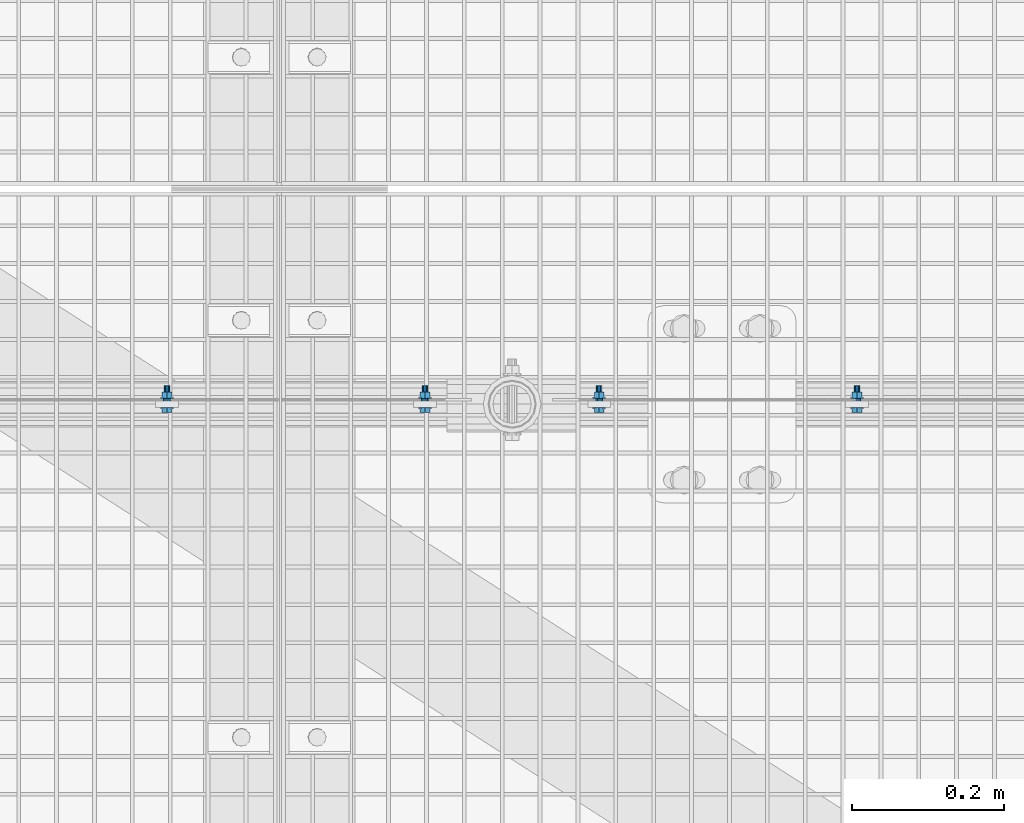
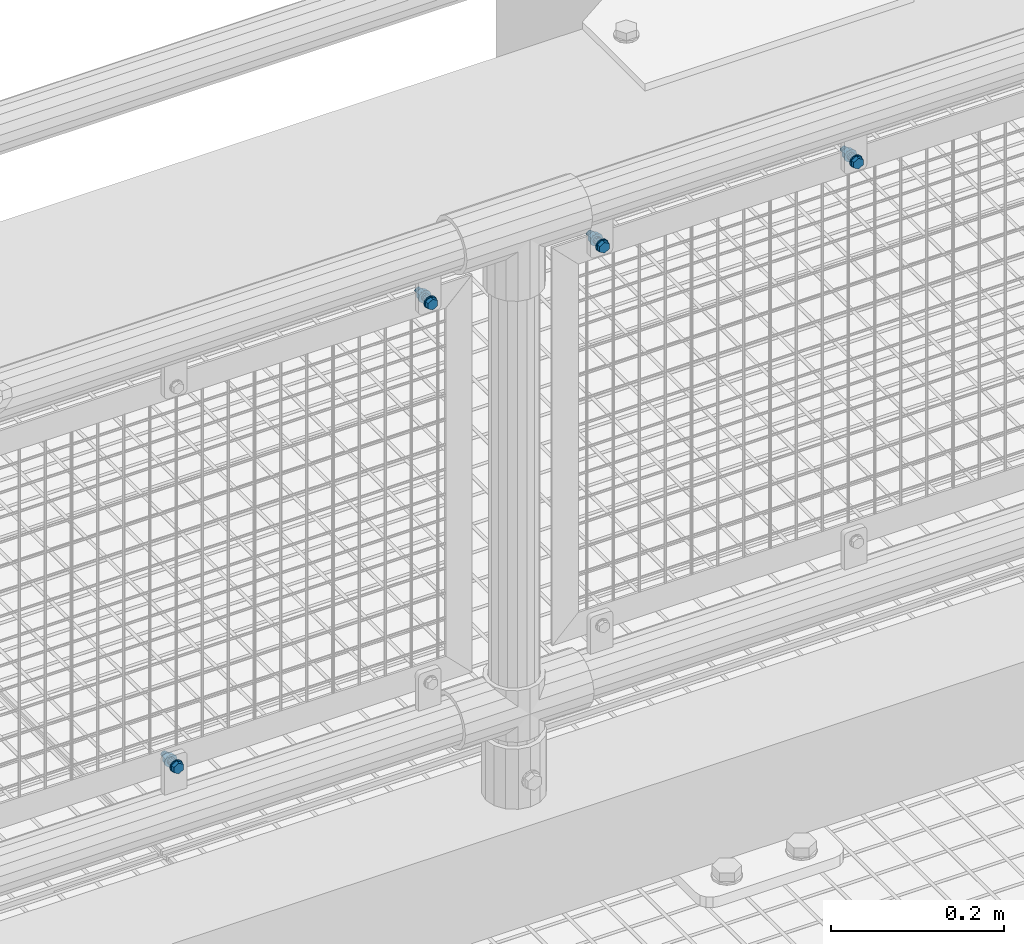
# One storey, part 91 of 1530: 4 mechanical fasteners.
"""IFC2X3 building model written with IfcOpenShell, lengths in millimetres."""

from ifc_helpers import new_model, si_unit, frame, origin_with_axes, place, context, subcontext, project, spatial, faceted_brep, source, transform, mapped, material, type_object, element, save


model = new_model("IFC2X3")

# Units and contexts
model_context = context("Model", 3, precision=1e-05, world=origin_with_axes())
body_context = subcontext(model_context, "Body", "Model", "MODEL_VIEW")
ifc_project = project(units=[si_unit("LENGTHUNIT", "METRE", prefix="MILLI"), si_unit("AREAUNIT", "SQUARE_METRE"), si_unit("VOLUMEUNIT", "CUBIC_METRE"), si_unit("MASSUNIT", "GRAM", prefix="KILO"), si_unit("TIMEUNIT", "SECOND"), si_unit("PLANEANGLEUNIT", "RADIAN"), si_unit("SOLIDANGLEUNIT", "STERADIAN"), si_unit("THERMODYNAMICTEMPERATUREUNIT", "DEGREE_CELSIUS"), si_unit("LUMINOUSINTENSITYUNIT", "LUMEN")], contexts=[model_context])

# Site, building, storey
site_placement = place(None, origin_with_axes())
site = spatial("IfcSite", under=ifc_project, at=site_placement, Name="Brattvåg", CompositionType="ELEMENT")
building_placement = place(site_placement, origin_with_axes())
building = spatial("IfcBuilding", under=site, at=building_placement, Name="Undefined", CompositionType="ELEMENT")
storey_placement = place(building_placement, origin_with_axes())
storey = spatial("IfcBuildingStorey", under=building, at=storey_placement, Name="Undefined", CompositionType="ELEMENT", Elevation=0.0)

# Mechanical fasteners
ifc_material = material(Name="8")
mechanical_fastener_type = type_object("IfcMechanicalFastenerType", Name="Bolt assembly")
shared_shape_1 = source(origin_with_axes(), body_context, "Body", "Brep", [
    faceted_brep([(7.50555349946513, -6.90000021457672, 0.0), (3.75277674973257, -6.90000021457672, 6.5), (-3.75277674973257, -6.90000021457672, 6.5), (-7.50555349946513, -6.90000021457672, 9.19165206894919e-16), (-3.75277674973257, -6.90000021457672, -6.5), (3.75277674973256, -6.90000021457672, -6.5), (3.75277674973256, -1.60000002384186, -6.5), (-3.75277674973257, -1.60000002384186, -6.5), (-7.50555349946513, -1.60000002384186, 9.19165206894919e-16), (-3.75277674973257, -1.60000002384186, 6.5), (3.75277674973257, -1.60000002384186, 6.5), (7.50555349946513, -1.60000002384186, 0.0), (4.0, -1.60000002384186, 0.0), (3.46410161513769, -1.60000002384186, 2.00000000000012), (1.99999999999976, -1.60000002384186, 3.46410161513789), (-4.14534392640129e-13, -1.60000002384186, 4.0), (-2.00000000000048, -1.60000002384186, 3.46410161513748), (-3.4641016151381, -1.60000002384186, 1.9999999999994), (-4.0, -1.60000002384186, -8.29068785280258e-13), (-3.46410161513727, -1.60000002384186, -2.00000000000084), (-1.99999999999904, -1.60000002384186, -3.46410161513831), (1.23916228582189e-12, -1.60000002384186, -4.0), (2.00000000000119, -1.60000002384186, -3.46410161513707), (3.46410161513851, -1.60000002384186, -1.99999999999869), (3.46410161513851, 28.3999999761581, -1.99999999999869), (2.00000000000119, 28.3999999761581, -3.46410161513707), (1.23916228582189e-12, 28.3999999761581, -4.0), (-1.99999999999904, 28.3999999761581, -3.46410161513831), (-3.46410161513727, 28.3999999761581, -2.00000000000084), (-4.0, 28.3999999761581, -8.29068785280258e-13), (-3.4641016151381, 28.3999999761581, 1.9999999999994), (-2.00000000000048, 28.3999999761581, 3.46410161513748), (-4.14534392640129e-13, 28.3999999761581, 4.0), (1.99999999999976, 28.3999999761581, 3.46410161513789), (3.46410161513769, 28.3999999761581, 2.00000000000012), (4.0, 28.3999999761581, 0.0), (8.5, -1.60000002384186, 0.0), (7.36121593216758, -1.60000002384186, 4.25000000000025), (4.24999999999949, -1.60000002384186, 7.36121593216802), (-8.80885584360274e-13, -1.60000002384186, 8.5), (-4.25000000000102, -1.60000002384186, 7.36121593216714), (-7.36121593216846, -1.60000002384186, 4.24999999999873), (-8.5, -1.60000002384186, -1.76177116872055e-12), (-7.3612159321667, -1.60000002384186, -4.25000000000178), (-4.24999999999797, -1.60000002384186, -7.3612159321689), (2.63321985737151e-12, -1.60000002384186, -8.5), (4.25000000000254, -1.60000002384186, -7.36121593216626), (7.36121593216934, -1.60000002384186, -4.24999999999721), (7.36121593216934, 0.0, -4.24999999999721), (4.25000000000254, 0.0, -7.36121593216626), (2.63321985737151e-12, 0.0, -8.5), (-4.24999999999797, 0.0, -7.3612159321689), (-7.3612159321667, 0.0, -4.25000000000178), (-8.5, 0.0, -1.76177116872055e-12), (-7.36121593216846, 0.0, 4.24999999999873), (-4.25000000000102, 0.0, 7.36121593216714), (-8.80885584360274e-13, 0.0, 8.5), (4.24999999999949, 0.0, 7.36121593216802), (7.36121593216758, 0.0, 4.25000000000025), (8.5, 0.0, 0.0), (8.5, 11.5015258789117, 0.0), (7.36121593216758, 11.5015258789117, 4.25000000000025), (4.24999999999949, 11.5015258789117, 7.36121593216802), (-8.80885584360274e-13, 11.5015258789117, 8.5), (-4.25000000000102, 11.5015258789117, 7.36121593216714), (-7.36121593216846, 11.5015258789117, 4.24999999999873), (-8.5, 11.5015258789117, -1.76177116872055e-12), (-7.3612159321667, 11.5015258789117, -4.25000000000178), (-4.24999999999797, 11.5015258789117, -7.3612159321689), (2.63321985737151e-12, 11.5015258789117, -8.5), (4.25000000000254, 11.5015258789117, -7.36121593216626), (7.36121593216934, 11.5015258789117, -4.24999999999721), (7.36121593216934, 13.1015259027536, -4.24999999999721), (4.25000000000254, 13.1015259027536, -7.36121593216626), (2.63321985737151e-12, 13.1015259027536, -8.5), (-4.24999999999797, 13.1015259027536, -7.3612159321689), (-7.3612159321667, 13.1015259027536, -4.25000000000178), (-8.5, 13.1015259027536, -1.76177116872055e-12), (-7.36121593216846, 13.1015259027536, 4.24999999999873), (-4.25000000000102, 13.1015259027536, 7.36121593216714), (-8.80885584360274e-13, 13.1015259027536, 8.5), (4.24999999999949, 13.1015259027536, 7.36121593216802), (7.36121593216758, 13.1015259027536, 4.25000000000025), (8.5, 13.1015259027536, 0.0), (7.50555349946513, 13.1015259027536, 0.0), (3.75277674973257, 13.1015259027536, 6.5), (-3.75277674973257, 13.1015259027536, 6.5), (-7.50555349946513, 13.1015259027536, 9.19165206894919e-16), (-3.75277674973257, 13.1015259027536, -6.5), (3.75277674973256, 13.1015259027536, -6.5), (3.75277674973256, 19.9015260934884, -6.5), (-3.75277674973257, 19.9015260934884, -6.5), (-7.50555349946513, 19.9015260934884, 9.19165206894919e-16), (-3.75277674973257, 19.9015260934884, 6.5), (3.75277674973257, 19.9015260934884, 6.5), (7.50555349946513, 19.9015260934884, 0.0)], [[[0, 1, 2, 3, 4, 5]], [[6, 7, 8, 9, 10, 11]], [[0, 11, 10, 1]], [[1, 10, 9, 2]], [[2, 9, 8, 3]], [[3, 8, 7, 4]], [[4, 7, 6, 5]], [[5, 6, 11, 0]], [[12, 13, 14, 15, 16, 17, 18, 19, 20, 21, 22, 23]], [[24, 25, 26, 27, 28, 29, 30, 31, 32, 33, 34, 35]], [[12, 35, 34, 13]], [[13, 34, 33, 14]], [[14, 33, 32, 15]], [[15, 32, 31, 16]], [[16, 31, 30, 17]], [[17, 30, 29, 18]], [[18, 29, 28, 19]], [[19, 28, 27, 20]], [[20, 27, 26, 21]], [[21, 26, 25, 22]], [[22, 25, 24, 23]], [[23, 24, 35, 12]], [[36, 37, 38, 39, 40, 41, 42, 43, 44, 45, 46, 47]], [[48, 49, 50, 51, 52, 53, 54, 55, 56, 57, 58, 59]], [[36, 59, 58, 37]], [[37, 58, 57, 38]], [[38, 57, 56, 39]], [[39, 56, 55, 40]], [[40, 55, 54, 41]], [[41, 54, 53, 42]], [[42, 53, 52, 43]], [[43, 52, 51, 44]], [[44, 51, 50, 45]], [[45, 50, 49, 46]], [[46, 49, 48, 47]], [[47, 48, 59, 36]], [[60, 61, 62, 63, 64, 65, 66, 67, 68, 69, 70, 71]], [[72, 73, 74, 75, 76, 77, 78, 79, 80, 81, 82, 83]], [[60, 83, 82, 61]], [[61, 82, 81, 62]], [[62, 81, 80, 63]], [[63, 80, 79, 64]], [[64, 79, 78, 65]], [[65, 78, 77, 66]], [[66, 77, 76, 67]], [[67, 76, 75, 68]], [[68, 75, 74, 69]], [[69, 74, 73, 70]], [[70, 73, 72, 71]], [[71, 72, 83, 60]], [[84, 85, 86, 87, 88, 89]], [[90, 91, 92, 93, 94, 95]], [[84, 95, 94, 85]], [[85, 94, 93, 86]], [[86, 93, 92, 87]], [[87, 92, 91, 88]], [[88, 91, 90, 89]], [[89, 90, 95, 84]]]),
    faceted_brep([(5.0, 0.1, 0.0), (4.33012701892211, 0.1, 2.50000000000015), (2.4999999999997, 0.1, 4.33012701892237), (-5.18167990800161e-13, 0.1, 5.0), (-2.5000000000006, 0.1, 4.33012701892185), (-4.33012701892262, 0.1, 2.49999999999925), (-5.0, 0.1, -1.03633598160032e-12), (-4.33012701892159, 0.1, -2.50000000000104), (-2.49999999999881, 0.1, -4.33012701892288), (1.54895285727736e-12, 0.1, -5.0), (2.50000000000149, 0.1, -4.33012701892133), (4.33012701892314, 0.1, -2.49999999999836), (4.33012701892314, 8.1, -2.49999999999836), (2.50000000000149, 8.1, -4.33012701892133), (1.54895285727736e-12, 8.1, -5.0), (-2.49999999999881, 8.1, -4.33012701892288), (-4.33012701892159, 8.1, -2.50000000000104), (-5.0, 8.1, -1.03633598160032e-12), (-4.33012701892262, 8.1, 2.49999999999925), (-2.5000000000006, 8.1, 4.33012701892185), (-5.18167990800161e-13, 8.1, 5.0), (2.4999999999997, 8.1, 4.33012701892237), (4.33012701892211, 8.1, 2.50000000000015), (5.0, 8.1, 0.0), (5.0, 8.40152587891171, 0.0), (4.33012701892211, 8.40152587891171, 2.50000000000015), (2.4999999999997, 8.40152587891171, 4.33012701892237), (-5.18167990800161e-13, 8.40152587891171, 5.0), (-2.5000000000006, 8.40152587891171, 4.33012701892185), (-4.33012701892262, 8.40152587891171, 2.49999999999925), (-5.0, 8.40152587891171, -1.03633598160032e-12), (-4.33012701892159, 8.40152587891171, -2.50000000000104), (-2.49999999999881, 8.40152587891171, -4.33012701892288), (1.54895285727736e-12, 8.40152587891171, -5.0), (2.50000000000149, 8.40152587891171, -4.33012701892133), (4.33012701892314, 8.40152587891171, -2.49999999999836), (4.33012701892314, 11.5015258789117, -2.49999999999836), (2.50000000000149, 11.5015258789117, -4.33012701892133), (1.54895285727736e-12, 11.5015258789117, -5.0), (-2.49999999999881, 11.5015258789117, -4.33012701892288), (-4.33012701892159, 11.5015258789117, -2.50000000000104), (-5.0, 11.5015258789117, -1.03633598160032e-12), (-4.33012701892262, 11.5015258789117, 2.49999999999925), (-2.5000000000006, 11.5015258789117, 4.33012701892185), (-5.18167990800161e-13, 11.5015258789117, 5.0), (2.4999999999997, 11.5015258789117, 4.33012701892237), (4.33012701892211, 11.5015258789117, 2.50000000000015), (5.0, 11.5015258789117, 0.0)], [[[0, 1, 2, 3, 4, 5, 6, 7, 8, 9, 10, 11]], [[12, 13, 14, 15, 16, 17, 18, 19, 20, 21, 22, 23]], [[0, 23, 22, 1]], [[1, 22, 21, 2]], [[2, 21, 20, 3]], [[3, 20, 19, 4]], [[4, 19, 18, 5]], [[5, 18, 17, 6]], [[6, 17, 16, 7]], [[7, 16, 15, 8]], [[8, 15, 14, 9]], [[9, 14, 13, 10]], [[10, 13, 12, 11]], [[11, 12, 23, 0]], [[24, 25, 26, 27, 28, 29, 30, 31, 32, 33, 34, 35]], [[36, 37, 38, 39, 40, 41, 42, 43, 44, 45, 46, 47]], [[24, 47, 46, 25]], [[25, 46, 45, 26]], [[26, 45, 44, 27]], [[27, 44, 43, 28]], [[28, 43, 42, 29]], [[29, 42, 41, 30]], [[30, 41, 40, 31]], [[31, 40, 39, 32]], [[32, 39, 38, 33]], [[33, 38, 37, 34]], [[34, 37, 36, 35]], [[35, 36, 47, 24]]]),
])
for number, where, z_axis, x_axis, name in (
    (1, (10335.8509521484, 7660.49950027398, 889.680069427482), (-1.0, 1.99999855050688e-09, 0.0), (0.0, 0.0, 1.0), "Bolt assembly"),
    (2, (10675.8511047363, 7660.49950027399, 889.680069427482), (-1.0, 1.99999855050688e-09, 0.0), (0.0, 0.0, 1.0), "Bolt assembly"),
):
    element("IfcMechanicalFastener", number, at=place(storey_placement, frame(where, z_axis=z_axis, x_axis=x_axis)), inside=storey, type_object=mechanical_fastener_type, material=ifc_material, Name=name, NominalDiameter=8.0, NominalLength=30.0, context=body_context, shape_type="MappedRepresentation", body=[
        mapped(shared_shape_1, transform((0.0, 0.0, 0.0))),
    ])
shared_shape_2 = source(origin_with_axes(), body_context, "Body", "Brep", [
    faceted_brep([(7.50555349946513, -6.90000021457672, 0.0), (3.75277674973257, -6.90000021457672, 6.5), (-3.75277674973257, -6.90000021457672, 6.5), (-7.50555349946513, -6.90000021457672, 9.19165206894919e-16), (-3.75277674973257, -6.90000021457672, -6.5), (3.75277674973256, -6.90000021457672, -6.5), (3.75277674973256, -1.60000002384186, -6.5), (-3.75277674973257, -1.60000002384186, -6.5), (-7.50555349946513, -1.60000002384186, 9.19165206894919e-16), (-3.75277674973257, -1.60000002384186, 6.5), (3.75277674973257, -1.60000002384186, 6.5), (7.50555349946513, -1.60000002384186, 0.0), (4.0, -1.60000002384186, 0.0), (3.46410161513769, -1.60000002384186, 2.00000000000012), (1.99999999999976, -1.60000002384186, 3.46410161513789), (-4.14534392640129e-13, -1.60000002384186, 4.0), (-2.00000000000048, -1.60000002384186, 3.46410161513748), (-3.4641016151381, -1.60000002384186, 1.9999999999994), (-4.0, -1.60000002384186, -8.29068785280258e-13), (-3.46410161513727, -1.60000002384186, -2.00000000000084), (-1.99999999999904, -1.60000002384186, -3.46410161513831), (1.23916228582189e-12, -1.60000002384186, -4.0), (2.00000000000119, -1.60000002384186, -3.46410161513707), (3.46410161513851, -1.60000002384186, -1.99999999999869), (3.46410161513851, 28.3999999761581, -1.99999999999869), (2.00000000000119, 28.3999999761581, -3.46410161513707), (1.23916228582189e-12, 28.3999999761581, -4.0), (-1.99999999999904, 28.3999999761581, -3.46410161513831), (-3.46410161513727, 28.3999999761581, -2.00000000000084), (-4.0, 28.3999999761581, -8.29068785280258e-13), (-3.4641016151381, 28.3999999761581, 1.9999999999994), (-2.00000000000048, 28.3999999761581, 3.46410161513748), (-4.14534392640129e-13, 28.3999999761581, 4.0), (1.99999999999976, 28.3999999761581, 3.46410161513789), (3.46410161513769, 28.3999999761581, 2.00000000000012), (4.0, 28.3999999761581, 0.0), (8.5, -1.60000002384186, 0.0), (7.36121593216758, -1.60000002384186, 4.25000000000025), (4.24999999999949, -1.60000002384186, 7.36121593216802), (-8.80885584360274e-13, -1.60000002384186, 8.5), (-4.25000000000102, -1.60000002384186, 7.36121593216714), (-7.36121593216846, -1.60000002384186, 4.24999999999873), (-8.5, -1.60000002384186, -1.76177116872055e-12), (-7.3612159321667, -1.60000002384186, -4.25000000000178), (-4.24999999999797, -1.60000002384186, -7.3612159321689), (2.63321985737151e-12, -1.60000002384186, -8.5), (4.25000000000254, -1.60000002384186, -7.36121593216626), (7.36121593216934, -1.60000002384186, -4.24999999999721), (7.36121593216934, 0.0, -4.24999999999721), (4.25000000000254, 0.0, -7.36121593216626), (2.63321985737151e-12, 0.0, -8.5), (-4.24999999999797, 0.0, -7.3612159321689), (-7.3612159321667, 0.0, -4.25000000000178), (-8.5, 0.0, -1.76177116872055e-12), (-7.36121593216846, 0.0, 4.24999999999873), (-4.25000000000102, 0.0, 7.36121593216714), (-8.80885584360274e-13, 0.0, 8.5), (4.24999999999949, 0.0, 7.36121593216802), (7.36121593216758, 0.0, 4.25000000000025), (8.5, 0.0, 0.0), (8.5, 11.5021362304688, 0.0), (7.36121593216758, 11.5021362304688, 4.25000000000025), (4.24999999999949, 11.5021362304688, 7.36121593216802), (-8.80885584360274e-13, 11.5021362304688, 8.5), (-4.25000000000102, 11.5021362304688, 7.36121593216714), (-7.36121593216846, 11.5021362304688, 4.24999999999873), (-8.5, 11.5021362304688, -1.76177116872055e-12), (-7.3612159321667, 11.5021362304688, -4.25000000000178), (-4.24999999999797, 11.5021362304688, -7.3612159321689), (2.63321985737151e-12, 11.5021362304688, -8.5), (4.25000000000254, 11.5021362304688, -7.36121593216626), (7.36121593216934, 11.5021362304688, -4.24999999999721), (7.36121593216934, 13.1021362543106, -4.24999999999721), (4.25000000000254, 13.1021362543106, -7.36121593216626), (2.63321985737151e-12, 13.1021362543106, -8.5), (-4.24999999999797, 13.1021362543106, -7.3612159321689), (-7.3612159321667, 13.1021362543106, -4.25000000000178), (-8.5, 13.1021362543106, -1.76177116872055e-12), (-7.36121593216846, 13.1021362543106, 4.24999999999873), (-4.25000000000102, 13.1021362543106, 7.36121593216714), (-8.80885584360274e-13, 13.1021362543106, 8.5), (4.24999999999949, 13.1021362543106, 7.36121593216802), (7.36121593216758, 13.1021362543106, 4.25000000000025), (8.5, 13.1021362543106, 0.0), (7.50555349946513, 13.1021362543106, 0.0), (3.75277674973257, 13.1021362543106, 6.5), (-3.75277674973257, 13.1021362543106, 6.5), (-7.50555349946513, 13.1021362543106, 9.19165206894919e-16), (-3.75277674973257, 13.1021362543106, -6.5), (3.75277674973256, 13.1021362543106, -6.5), (3.75277674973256, 19.9021364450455, -6.5), (-3.75277674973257, 19.9021364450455, -6.5), (-7.50555349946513, 19.9021364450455, 9.19165206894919e-16), (-3.75277674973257, 19.9021364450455, 6.5), (3.75277674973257, 19.9021364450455, 6.5), (7.50555349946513, 19.9021364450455, 0.0)], [[[0, 1, 2, 3, 4, 5]], [[6, 7, 8, 9, 10, 11]], [[0, 11, 10, 1]], [[1, 10, 9, 2]], [[2, 9, 8, 3]], [[3, 8, 7, 4]], [[4, 7, 6, 5]], [[5, 6, 11, 0]], [[12, 13, 14, 15, 16, 17, 18, 19, 20, 21, 22, 23]], [[24, 25, 26, 27, 28, 29, 30, 31, 32, 33, 34, 35]], [[12, 35, 34, 13]], [[13, 34, 33, 14]], [[14, 33, 32, 15]], [[15, 32, 31, 16]], [[16, 31, 30, 17]], [[17, 30, 29, 18]], [[18, 29, 28, 19]], [[19, 28, 27, 20]], [[20, 27, 26, 21]], [[21, 26, 25, 22]], [[22, 25, 24, 23]], [[23, 24, 35, 12]], [[36, 37, 38, 39, 40, 41, 42, 43, 44, 45, 46, 47]], [[48, 49, 50, 51, 52, 53, 54, 55, 56, 57, 58, 59]], [[36, 59, 58, 37]], [[37, 58, 57, 38]], [[38, 57, 56, 39]], [[39, 56, 55, 40]], [[40, 55, 54, 41]], [[41, 54, 53, 42]], [[42, 53, 52, 43]], [[43, 52, 51, 44]], [[44, 51, 50, 45]], [[45, 50, 49, 46]], [[46, 49, 48, 47]], [[47, 48, 59, 36]], [[60, 61, 62, 63, 64, 65, 66, 67, 68, 69, 70, 71]], [[72, 73, 74, 75, 76, 77, 78, 79, 80, 81, 82, 83]], [[60, 83, 82, 61]], [[61, 82, 81, 62]], [[62, 81, 80, 63]], [[63, 80, 79, 64]], [[64, 79, 78, 65]], [[65, 78, 77, 66]], [[66, 77, 76, 67]], [[67, 76, 75, 68]], [[68, 75, 74, 69]], [[69, 74, 73, 70]], [[70, 73, 72, 71]], [[71, 72, 83, 60]], [[84, 85, 86, 87, 88, 89]], [[90, 91, 92, 93, 94, 95]], [[84, 95, 94, 85]], [[85, 94, 93, 86]], [[86, 93, 92, 87]], [[87, 92, 91, 88]], [[88, 91, 90, 89]], [[89, 90, 95, 84]]]),
    faceted_brep([(5.0, 0.1, 0.0), (4.33012701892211, 0.1, 2.50000000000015), (2.4999999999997, 0.1, 4.33012701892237), (-5.18167990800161e-13, 0.1, 5.0), (-2.5000000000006, 0.1, 4.33012701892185), (-4.33012701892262, 0.1, 2.49999999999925), (-5.0, 0.1, -1.03633598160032e-12), (-4.33012701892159, 0.1, -2.50000000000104), (-2.49999999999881, 0.1, -4.33012701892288), (1.54895285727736e-12, 0.1, -5.0), (2.50000000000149, 0.1, -4.33012701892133), (4.33012701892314, 0.1, -2.49999999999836), (4.33012701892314, 8.1, -2.49999999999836), (2.50000000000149, 8.1, -4.33012701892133), (1.54895285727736e-12, 8.1, -5.0), (-2.49999999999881, 8.1, -4.33012701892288), (-4.33012701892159, 8.1, -2.50000000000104), (-5.0, 8.1, -1.03633598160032e-12), (-4.33012701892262, 8.1, 2.49999999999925), (-2.5000000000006, 8.1, 4.33012701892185), (-5.18167990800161e-13, 8.1, 5.0), (2.4999999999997, 8.1, 4.33012701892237), (4.33012701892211, 8.1, 2.50000000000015), (5.0, 8.1, 0.0), (5.0, 8.40213623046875, 0.0), (4.33012701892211, 8.40213623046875, 2.50000000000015), (2.4999999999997, 8.40213623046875, 4.33012701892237), (-5.18167990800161e-13, 8.40213623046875, 5.0), (-2.5000000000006, 8.40213623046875, 4.33012701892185), (-4.33012701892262, 8.40213623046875, 2.49999999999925), (-5.0, 8.40213623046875, -1.03633598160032e-12), (-4.33012701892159, 8.40213623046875, -2.50000000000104), (-2.49999999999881, 8.40213623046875, -4.33012701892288), (1.54895285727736e-12, 8.40213623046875, -5.0), (2.50000000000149, 8.40213623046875, -4.33012701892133), (4.33012701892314, 8.40213623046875, -2.49999999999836), (4.33012701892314, 11.5021362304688, -2.49999999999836), (2.50000000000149, 11.5021362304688, -4.33012701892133), (1.54895285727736e-12, 11.5021362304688, -5.0), (-2.49999999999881, 11.5021362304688, -4.33012701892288), (-4.33012701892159, 11.5021362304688, -2.50000000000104), (-5.0, 11.5021362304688, -1.03633598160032e-12), (-4.33012701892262, 11.5021362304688, 2.49999999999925), (-2.5000000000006, 11.5021362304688, 4.33012701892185), (-5.18167990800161e-13, 11.5021362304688, 5.0), (2.4999999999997, 11.5021362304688, 4.33012701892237), (4.33012701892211, 11.5021362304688, 2.50000000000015), (5.0, 11.5021362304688, 0.0)], [[[0, 1, 2, 3, 4, 5, 6, 7, 8, 9, 10, 11]], [[12, 13, 14, 15, 16, 17, 18, 19, 20, 21, 22, 23]], [[0, 23, 22, 1]], [[1, 22, 21, 2]], [[2, 21, 20, 3]], [[3, 20, 19, 4]], [[4, 19, 18, 5]], [[5, 18, 17, 6]], [[6, 17, 16, 7]], [[7, 16, 15, 8]], [[8, 15, 14, 9]], [[9, 14, 13, 10]], [[10, 13, 12, 11]], [[11, 12, 23, 0]], [[24, 25, 26, 27, 28, 29, 30, 31, 32, 33, 34, 35]], [[36, 37, 38, 39, 40, 41, 42, 43, 44, 45, 46, 47]], [[24, 47, 46, 25]], [[25, 46, 45, 26]], [[26, 45, 44, 27]], [[27, 44, 43, 28]], [[28, 43, 42, 29]], [[29, 42, 41, 30]], [[30, 41, 40, 31]], [[31, 40, 39, 32]], [[32, 39, 38, 33]], [[33, 38, 37, 34]], [[34, 37, 36, 35]], [[35, 36, 47, 24]]]),
])
mechanical_fastener_1_placement = place(storey_placement, frame((10106.0000915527, 7660.49888992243, 889.679782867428), z_axis=(-1.0, 1.99999855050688e-09, 0.0), x_axis=(0.0, 0.0, 1.0)))
element("IfcMechanicalFastener", 3, at=mechanical_fastener_1_placement, inside=storey, type_object=mechanical_fastener_type, material=ifc_material, Name="Bolt assembly", NominalDiameter=8.0, NominalLength=30.0, context=body_context, shape_type="MappedRepresentation", body=[
    mapped(shared_shape_2, transform((0.0, 0.0, 0.0))),
])
shared_shape_3 = source(origin_with_axes(), body_context, "Body", "Brep", [
    faceted_brep([(7.50555349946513, -6.899000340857, 0.0), (3.75277674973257, -6.899000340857, 6.5), (-3.75277674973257, -6.899000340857, 6.5), (-7.50555349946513, -6.899000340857, 9.19165206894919e-16), (-3.75277674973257, -6.899000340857, -6.5), (3.75277674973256, -6.899000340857, -6.5), (3.75277674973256, -1.59900015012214, -6.5), (-3.75277674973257, -1.59900015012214, -6.5), (-7.50555349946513, -1.59900015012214, 9.19165206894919e-16), (-3.75277674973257, -1.59900015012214, 6.5), (3.75277674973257, -1.59900015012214, 6.5), (7.50555349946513, -1.59900015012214, 0.0), (4.0, -1.59900015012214, 0.0), (3.46410161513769, -1.59900015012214, 2.00000000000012), (1.99999999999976, -1.59900015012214, 3.46410161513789), (-4.14534392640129e-13, -1.59900015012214, 4.0), (-2.00000000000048, -1.59900015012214, 3.46410161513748), (-3.4641016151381, -1.59900015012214, 1.9999999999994), (-4.0, -1.59900015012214, -8.29068785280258e-13), (-3.46410161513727, -1.59900015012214, -2.00000000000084), (-1.99999999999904, -1.59900015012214, -3.46410161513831), (1.23916228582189e-12, -1.59900015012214, -4.0), (2.00000000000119, -1.59900015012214, -3.46410161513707), (3.46410161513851, -1.59900015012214, -1.99999999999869), (3.46410161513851, 28.4009998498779, -1.99999999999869), (2.00000000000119, 28.4009998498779, -3.46410161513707), (1.23916228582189e-12, 28.4009998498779, -4.0), (-1.99999999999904, 28.4009998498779, -3.46410161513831), (-3.46410161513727, 28.4009998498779, -2.00000000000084), (-4.0, 28.4009998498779, -8.29068785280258e-13), (-3.4641016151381, 28.4009998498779, 1.9999999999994), (-2.00000000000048, 28.4009998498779, 3.46410161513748), (-4.14534392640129e-13, 28.4009998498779, 4.0), (1.99999999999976, 28.4009998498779, 3.46410161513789), (3.46410161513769, 28.4009998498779, 2.00000000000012), (4.0, 28.4009998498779, 0.0), (8.5, -1.59900015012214, 0.0), (7.36121593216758, -1.59900015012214, 4.25000000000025), (4.24999999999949, -1.59900015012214, 7.36121593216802), (-8.80885584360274e-13, -1.59900015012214, 8.5), (-4.25000000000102, -1.59900015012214, 7.36121593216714), (-7.36121593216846, -1.59900015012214, 4.24999999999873), (-8.5, -1.59900015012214, -1.76177116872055e-12), (-7.3612159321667, -1.59900015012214, -4.25000000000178), (-4.24999999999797, -1.59900015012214, -7.3612159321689), (2.63321985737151e-12, -1.59900015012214, -8.5), (4.25000000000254, -1.59900015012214, -7.36121593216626), (7.36121593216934, -1.59900015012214, -4.24999999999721), (7.36121593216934, 0.000999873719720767, -4.24999999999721), (4.25000000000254, 0.000999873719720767, -7.36121593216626), (2.63321985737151e-12, 0.000999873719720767, -8.5), (-4.24999999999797, 0.000999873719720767, -7.3612159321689), (-7.3612159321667, 0.000999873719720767, -4.25000000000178), (-8.5, 0.000999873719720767, -1.76177116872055e-12), (-7.36121593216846, 0.000999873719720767, 4.24999999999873), (-4.25000000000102, 0.000999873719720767, 7.36121593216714), (-8.80885584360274e-13, 0.000999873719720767, 8.5), (4.24999999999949, 0.000999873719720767, 7.36121593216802), (7.36121593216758, 0.000999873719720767, 4.25000000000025), (8.5, 0.000999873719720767, 0.0), (8.5, 11.5030995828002, 0.0), (7.36121593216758, 11.5030995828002, 4.25000000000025), (4.24999999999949, 11.5030995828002, 7.36121593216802), (-8.80885584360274e-13, 11.5030995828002, 8.5), (-4.25000000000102, 11.5030995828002, 7.36121593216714), (-7.36121593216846, 11.5030995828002, 4.24999999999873), (-8.5, 11.5030995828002, -1.76177116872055e-12), (-7.3612159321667, 11.5030995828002, -4.25000000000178), (-4.24999999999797, 11.5030995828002, -7.3612159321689), (2.63321985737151e-12, 11.5030995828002, -8.5), (4.25000000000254, 11.5030995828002, -7.36121593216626), (7.36121593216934, 11.5030995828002, -4.24999999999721), (7.36121593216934, 13.1030996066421, -4.24999999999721), (4.25000000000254, 13.1030996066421, -7.36121593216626), (2.63321985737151e-12, 13.1030996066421, -8.5), (-4.24999999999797, 13.1030996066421, -7.3612159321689), (-7.3612159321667, 13.1030996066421, -4.25000000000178), (-8.5, 13.1030996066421, -1.76177116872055e-12), (-7.36121593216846, 13.1030996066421, 4.24999999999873), (-4.25000000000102, 13.1030996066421, 7.36121593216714), (-8.80885584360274e-13, 13.1030996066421, 8.5), (4.24999999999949, 13.1030996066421, 7.36121593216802), (7.36121593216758, 13.1030996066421, 4.25000000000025), (8.5, 13.1030996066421, 0.0), (7.50555349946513, 13.1030996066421, 0.0), (3.75277674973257, 13.1030996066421, 6.5), (-3.75277674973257, 13.1030996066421, 6.5), (-7.50555349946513, 13.1030996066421, 9.19165206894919e-16), (-3.75277674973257, 13.1030996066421, -6.5), (3.75277674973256, 13.1030996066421, -6.5), (3.75277674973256, 19.9030997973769, -6.5), (-3.75277674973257, 19.9030997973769, -6.5), (-7.50555349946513, 19.9030997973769, 9.19165206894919e-16), (-3.75277674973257, 19.9030997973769, 6.5), (3.75277674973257, 19.9030997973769, 6.5), (7.50555349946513, 19.9030997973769, 0.0)], [[[0, 1, 2, 3, 4, 5]], [[6, 7, 8, 9, 10, 11]], [[0, 11, 10, 1]], [[1, 10, 9, 2]], [[2, 9, 8, 3]], [[3, 8, 7, 4]], [[4, 7, 6, 5]], [[5, 6, 11, 0]], [[12, 13, 14, 15, 16, 17, 18, 19, 20, 21, 22, 23]], [[24, 25, 26, 27, 28, 29, 30, 31, 32, 33, 34, 35]], [[12, 35, 34, 13]], [[13, 34, 33, 14]], [[14, 33, 32, 15]], [[15, 32, 31, 16]], [[16, 31, 30, 17]], [[17, 30, 29, 18]], [[18, 29, 28, 19]], [[19, 28, 27, 20]], [[20, 27, 26, 21]], [[21, 26, 25, 22]], [[22, 25, 24, 23]], [[23, 24, 35, 12]], [[36, 37, 38, 39, 40, 41, 42, 43, 44, 45, 46, 47]], [[48, 49, 50, 51, 52, 53, 54, 55, 56, 57, 58, 59]], [[36, 59, 58, 37]], [[37, 58, 57, 38]], [[38, 57, 56, 39]], [[39, 56, 55, 40]], [[40, 55, 54, 41]], [[41, 54, 53, 42]], [[42, 53, 52, 43]], [[43, 52, 51, 44]], [[44, 51, 50, 45]], [[45, 50, 49, 46]], [[46, 49, 48, 47]], [[47, 48, 59, 36]], [[60, 61, 62, 63, 64, 65, 66, 67, 68, 69, 70, 71]], [[72, 73, 74, 75, 76, 77, 78, 79, 80, 81, 82, 83]], [[60, 83, 82, 61]], [[61, 82, 81, 62]], [[62, 81, 80, 63]], [[63, 80, 79, 64]], [[64, 79, 78, 65]], [[65, 78, 77, 66]], [[66, 77, 76, 67]], [[67, 76, 75, 68]], [[68, 75, 74, 69]], [[69, 74, 73, 70]], [[70, 73, 72, 71]], [[71, 72, 83, 60]], [[84, 85, 86, 87, 88, 89]], [[90, 91, 92, 93, 94, 95]], [[84, 95, 94, 85]], [[85, 94, 93, 86]], [[86, 93, 92, 87]], [[87, 92, 91, 88]], [[88, 91, 90, 89]], [[89, 90, 95, 84]]]),
    faceted_brep([(5.0, 0.100999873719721, 0.0), (4.33012701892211, 0.100999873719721, 2.50000000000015), (2.4999999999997, 0.100999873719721, 4.33012701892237), (-5.18167990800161e-13, 0.100999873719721, 5.0), (-2.5000000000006, 0.100999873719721, 4.33012701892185), (-4.33012701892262, 0.100999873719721, 2.49999999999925), (-5.0, 0.100999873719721, -1.03633598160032e-12), (-4.33012701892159, 0.100999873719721, -2.50000000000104), (-2.49999999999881, 0.100999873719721, -4.33012701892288), (1.54895285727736e-12, 0.100999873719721, -5.0), (2.50000000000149, 0.100999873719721, -4.33012701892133), (4.33012701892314, 0.100999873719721, -2.49999999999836), (4.33012701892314, 8.10099988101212, -2.49999999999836), (2.50000000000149, 8.10099988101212, -4.33012701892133), (1.54895285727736e-12, 8.10099988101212, -5.0), (-2.49999999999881, 8.10099988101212, -4.33012701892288), (-4.33012701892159, 8.10099988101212, -2.50000000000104), (-5.0, 8.10099988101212, -1.03633598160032e-12), (-4.33012701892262, 8.10099988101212, 2.49999999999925), (-2.5000000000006, 8.10099988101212, 4.33012701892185), (-5.18167990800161e-13, 8.10099988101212, 5.0), (2.4999999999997, 8.10099988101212, 4.33012701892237), (4.33012701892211, 8.10099988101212, 2.50000000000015), (5.0, 8.10099988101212, 0.0), (5.0, 8.40309958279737, 0.0), (4.33012701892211, 8.40309958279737, 2.50000000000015), (2.4999999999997, 8.40309958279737, 4.33012701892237), (-5.18167990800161e-13, 8.40309958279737, 5.0), (-2.5000000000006, 8.40309958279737, 4.33012701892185), (-4.33012701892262, 8.40309958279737, 2.49999999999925), (-5.0, 8.40309958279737, -1.03633598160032e-12), (-4.33012701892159, 8.40309958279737, -2.50000000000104), (-2.49999999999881, 8.40309958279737, -4.33012701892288), (1.54895285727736e-12, 8.40309958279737, -5.0), (2.50000000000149, 8.40309958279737, -4.33012701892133), (4.33012701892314, 8.40309958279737, -2.49999999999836), (4.33012701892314, 11.5030995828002, -2.49999999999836), (2.50000000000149, 11.5030995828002, -4.33012701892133), (1.54895285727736e-12, 11.5030995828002, -5.0), (-2.49999999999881, 11.5030995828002, -4.33012701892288), (-4.33012701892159, 11.5030995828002, -2.50000000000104), (-5.0, 11.5030995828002, -1.03633598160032e-12), (-4.33012701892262, 11.5030995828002, 2.49999999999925), (-2.5000000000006, 11.5030995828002, 4.33012701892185), (-5.18167990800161e-13, 11.5030995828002, 5.0), (2.4999999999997, 11.5030995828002, 4.33012701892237), (4.33012701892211, 11.5030995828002, 2.50000000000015), (5.0, 11.5030995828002, 0.0)], [[[0, 1, 2, 3, 4, 5, 6, 7, 8, 9, 10, 11]], [[12, 13, 14, 15, 16, 17, 18, 19, 20, 21, 22, 23]], [[0, 23, 22, 1]], [[1, 22, 21, 2]], [[2, 21, 20, 3]], [[3, 20, 19, 4]], [[4, 19, 18, 5]], [[5, 18, 17, 6]], [[6, 17, 16, 7]], [[7, 16, 15, 8]], [[8, 15, 14, 9]], [[9, 14, 13, 10]], [[10, 13, 12, 11]], [[11, 12, 23, 0]], [[24, 25, 26, 27, 28, 29, 30, 31, 32, 33, 34, 35]], [[36, 37, 38, 39, 40, 41, 42, 43, 44, 45, 46, 47]], [[24, 47, 46, 25]], [[25, 46, 45, 26]], [[26, 45, 44, 27]], [[27, 44, 43, 28]], [[28, 43, 42, 29]], [[29, 42, 41, 30]], [[30, 41, 40, 31]], [[31, 40, 39, 32]], [[32, 39, 38, 33]], [[33, 38, 37, 34]], [[34, 37, 36, 35]], [[35, 36, 47, 24]]]),
])
mechanical_fastener_2_placement = place(storey_placement, frame((9765.8512954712, 7660.49843978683, 352.299672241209), z_axis=(-1.0, 1.99999855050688e-09, 0.0), x_axis=(0.0, 0.0, 1.0)))
element("IfcMechanicalFastener", 4, at=mechanical_fastener_2_placement, inside=storey, type_object=mechanical_fastener_type, material=ifc_material, Name="Bolt assembly", NominalDiameter=8.0, NominalLength=30.0, context=body_context, shape_type="MappedRepresentation", body=[
    mapped(shared_shape_3, transform((0.0, 0.0, 0.0))),
])

save(model, "model.ifc")
